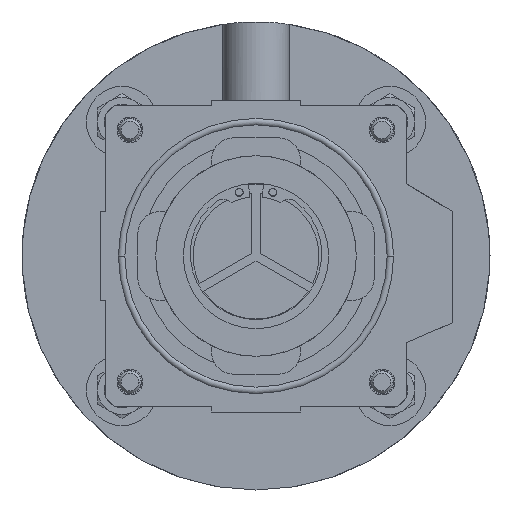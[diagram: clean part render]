
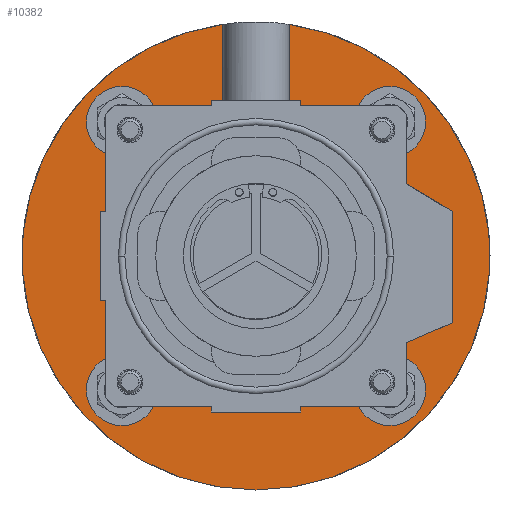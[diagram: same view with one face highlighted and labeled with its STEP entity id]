
A CAD part, front view. The second image highlights one B-rep face of the part: STEP entity #10382.
In plain terms, the highlighted planar face has unit normal (0, -1, 0).
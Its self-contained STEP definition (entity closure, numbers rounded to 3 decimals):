
#1512=CARTESIAN_POINT('',(0.,87.,0.));
#1513=DIRECTION('',(0.,1.,0.));
#1514=DIRECTION('',(0.096,0.,-0.995));
#1515=AXIS2_PLACEMENT_3D('',#1512,#1513,#1514);
#1611=DIRECTION('',(-1.,0.,0.));
#1612=VECTOR('',#1611,52.504);
#1613=CARTESIAN_POINT('',(88.,87.,-6.));
#1614=LINE('',#1613,#1612);
#1619=DIRECTION('',(0.,0.,1.));
#1620=VECTOR('',#1619,12.);
#1621=CARTESIAN_POINT('',(88.,87.,-6.));
#1622=LINE('',#1621,#1620);
#1623=DIRECTION('',(0.,0.,-1.));
#1624=VECTOR('',#1623,71.197);
#1625=CARTESIAN_POINT('',(15.,87.,103.923));
#1626=LINE('',#1625,#1624);
#1627=CARTESIAN_POINT('',(0.,87.,0.));
#1628=DIRECTION('',(0.,1.,0.));
#1629=DIRECTION('',(0.143,0.,0.99));
#1630=AXIS2_PLACEMENT_3D('',#1627,#1628,#1629);
#1632=CARTESIAN_POINT('',(0.,87.,0.));
#1633=DIRECTION('',(0.,-1.,0.));
#1634=DIRECTION('',(-0.143,0.,0.99));
#1635=AXIS2_PLACEMENT_3D('',#1632,#1633,#1634);
#1637=DIRECTION('',(0.,0.,-1.));
#1638=VECTOR('',#1637,71.197);
#1639=CARTESIAN_POINT('',(-15.,87.,103.923));
#1640=LINE('',#1639,#1638);
#1641=DIRECTION('',(-1.,0.,0.));
#1642=VECTOR('',#1641,26.715);
#1643=CARTESIAN_POINT('',(-35.496,87.,6.));
#1644=LINE('',#1643,#1642);
#1645=CARTESIAN_POINT('',(0.,87.,0.));
#1646=DIRECTION('',(0.,-1.,0.));
#1647=DIRECTION('',(-0.995,0.,0.096));
#1648=AXIS2_PLACEMENT_3D('',#1645,#1646,#1647);
#1650=DIRECTION('',(1.,0.,0.));
#1651=VECTOR('',#1650,26.715);
#1652=CARTESIAN_POINT('',(-62.211,87.,-6.));
#1653=LINE('',#1652,#1651);
#1654=DIRECTION('',(0.,0.,-1.));
#1655=VECTOR('',#1654,26.715);
#1656=CARTESIAN_POINT('',(-6.,87.,-35.496));
#1657=LINE('',#1656,#1655);
#1658=DIRECTION('',(0.,0.,1.));
#1659=VECTOR('',#1658,26.715);
#1660=CARTESIAN_POINT('',(6.,87.,-62.211));
#1661=LINE('',#1660,#1659);
#1662=CARTESIAN_POINT('',(60.104,87.,-60.104));
#1663=DIRECTION('',(0.,1.,0.));
#1664=DIRECTION('',(1.,0.,0.));
#1665=AXIS2_PLACEMENT_3D('',#1662,#1663,#1664);
#1667=CARTESIAN_POINT('',(60.104,87.,-60.104));
#1668=DIRECTION('',(0.,1.,0.));
#1669=DIRECTION('',(-1.,0.,0.));
#1670=AXIS2_PLACEMENT_3D('',#1667,#1668,#1669);
#1672=CARTESIAN_POINT('',(60.104,87.,60.104));
#1673=DIRECTION('',(0.,1.,0.));
#1674=DIRECTION('',(1.,0.,0.));
#1675=AXIS2_PLACEMENT_3D('',#1672,#1673,#1674);
#1677=CARTESIAN_POINT('',(60.104,87.,60.104));
#1678=DIRECTION('',(0.,1.,0.));
#1679=DIRECTION('',(-1.,0.,0.));
#1680=AXIS2_PLACEMENT_3D('',#1677,#1678,#1679);
#1682=CARTESIAN_POINT('',(-60.104,87.,60.104));
#1683=DIRECTION('',(0.,1.,0.));
#1684=DIRECTION('',(1.,0.,0.));
#1685=AXIS2_PLACEMENT_3D('',#1682,#1683,#1684);
#1687=CARTESIAN_POINT('',(-60.104,87.,60.104));
#1688=DIRECTION('',(0.,1.,0.));
#1689=DIRECTION('',(-1.,0.,0.));
#1690=AXIS2_PLACEMENT_3D('',#1687,#1688,#1689);
#1692=CARTESIAN_POINT('',(-60.104,87.,-60.104));
#1693=DIRECTION('',(0.,1.,0.));
#1694=DIRECTION('',(1.,0.,0.));
#1695=AXIS2_PLACEMENT_3D('',#1692,#1693,#1694);
#1697=CARTESIAN_POINT('',(-60.104,87.,-60.104));
#1698=DIRECTION('',(0.,1.,0.));
#1699=DIRECTION('',(-1.,0.,0.));
#1700=AXIS2_PLACEMENT_3D('',#1697,#1698,#1699);
#1702=DIRECTION('',(1.,0.,0.));
#1703=VECTOR('',#1702,52.504);
#1704=CARTESIAN_POINT('',(35.496,87.,6.));
#1705=LINE('',#1704,#1703);
#1764=CARTESIAN_POINT('',(0.,87.,0.));
#1765=DIRECTION('',(0.,1.,0.));
#1766=DIRECTION('',(0.417,0.,0.909));
#1767=AXIS2_PLACEMENT_3D('',#1764,#1765,#1766);
#1795=CARTESIAN_POINT('',(15.,87.,103.923));
#1850=CARTESIAN_POINT('',(0.,87.,0.));
#1851=DIRECTION('',(0.,-1.,0.));
#1852=DIRECTION('',(-0.417,0.,0.909));
#1853=AXIS2_PLACEMENT_3D('',#1850,#1851,#1852);
#4123=CARTESIAN_POINT('',(0.,87.,0.));
#4124=DIRECTION('',(0.,-1.,0.));
#4125=DIRECTION('',(-0.986,0.,-0.167));
#4126=AXIS2_PLACEMENT_3D('',#4123,#4124,#4125);
#4136=CARTESIAN_POINT('',(0.,87.,0.));
#4137=DIRECTION('',(0.,1.,0.));
#4138=DIRECTION('',(0.986,0.,-0.167));
#4139=AXIS2_PLACEMENT_3D('',#4136,#4137,#4138);
#7178=CARTESIAN_POINT('',(6.,87.,-35.496));
#7180=VERTEX_POINT('',#7178);
#7182=CARTESIAN_POINT('',(35.496,87.,-6.));
#7184=VERTEX_POINT('',#7182);
#7186=CARTESIAN_POINT('',(35.496,87.,6.));
#7188=VERTEX_POINT('',#7186);
#7205=CARTESIAN_POINT('',(-6.,87.,-35.496));
#7206=VERTEX_POINT('',#7205);
#7213=CARTESIAN_POINT('',(-6.,87.,-62.211));
#7214=VERTEX_POINT('',#7213);
#7215=CARTESIAN_POINT('',(6.,87.,-62.211));
#7216=VERTEX_POINT('',#7215);
#7237=CARTESIAN_POINT('',(-35.496,87.,6.));
#7238=VERTEX_POINT('',#7237);
#7239=CARTESIAN_POINT('',(-35.496,87.,-6.));
#7240=VERTEX_POINT('',#7239);
#7241=CARTESIAN_POINT('',(-62.211,87.,6.));
#7242=VERTEX_POINT('',#7241);
#7243=CARTESIAN_POINT('',(-62.211,87.,-6.));
#7244=VERTEX_POINT('',#7243);
#7245=CARTESIAN_POINT('',(88.,87.,-6.));
#7246=CARTESIAN_POINT('',(88.,87.,6.));
#7247=VERTEX_POINT('',#7245);
#7248=VERTEX_POINT('',#7246);
#7311=CARTESIAN_POINT('',(-15.,87.,103.923));
#7312=CARTESIAN_POINT('',(-15.,87.,32.726));
#7313=VERTEX_POINT('',#7311);
#7314=VERTEX_POINT('',#7312);
#7315=CARTESIAN_POINT('',(0.,87.,-105.));
#7316=VERTEX_POINT('',#7315);
#7317=VERTEX_POINT('',#1795);
#7319=CARTESIAN_POINT('',(15.,87.,32.726));
#7320=VERTEX_POINT('',#7319);
#7983=CARTESIAN_POINT('',(76.104,87.,-60.104));
#7984=CARTESIAN_POINT('',(44.104,87.,-60.104));
#7985=VERTEX_POINT('',#7983);
#7986=VERTEX_POINT('',#7984);
#7991=CARTESIAN_POINT('',(76.104,87.,60.104));
#7992=CARTESIAN_POINT('',(44.104,87.,60.104));
#7993=VERTEX_POINT('',#7991);
#7994=VERTEX_POINT('',#7992);
#7999=CARTESIAN_POINT('',(-44.104,87.,60.104));
#8000=CARTESIAN_POINT('',(-76.104,87.,60.104));
#8001=VERTEX_POINT('',#7999);
#8002=VERTEX_POINT('',#8000);
#8007=CARTESIAN_POINT('',(-44.104,87.,-60.104));
#8008=CARTESIAN_POINT('',(-76.104,87.,-60.104));
#8009=VERTEX_POINT('',#8007);
#8010=VERTEX_POINT('',#8008);
#10321=CARTESIAN_POINT('',(0.,87.,0.));
#10322=DIRECTION('',(0.,1.,0.));
#10323=DIRECTION('',(0.,0.,-1.));
#10324=AXIS2_PLACEMENT_3D('',#10321,#10322,#10323);
#10325=PLANE('',#10324);
#10326=ORIENTED_EDGE('',*,*,#9435,.T.);
#10328=ORIENTED_EDGE('',*,*,#10327,.F.);
#10330=ORIENTED_EDGE('',*,*,#10329,.F.);
#10332=ORIENTED_EDGE('',*,*,#10331,.F.);
#10334=ORIENTED_EDGE('',*,*,#10333,.T.);
#10336=ORIENTED_EDGE('',*,*,#10335,.F.);
#10338=ORIENTED_EDGE('',*,*,#10337,.T.);
#10340=ORIENTED_EDGE('',*,*,#10339,.T.);
#10342=ORIENTED_EDGE('',*,*,#10341,.T.);
#10343=ORIENTED_EDGE('',*,*,#10225,.T.);
#10345=ORIENTED_EDGE('',*,*,#10344,.T.);
#10347=ORIENTED_EDGE('',*,*,#10346,.T.);
#10349=ORIENTED_EDGE('',*,*,#10348,.T.);
#10350=ORIENTED_EDGE('',*,*,#10217,.F.);
#10352=ORIENTED_EDGE('',*,*,#10351,.T.);
#10354=ORIENTED_EDGE('',*,*,#10353,.F.);
#10355=ORIENTED_EDGE('',*,*,#10314,.F.);
#10356=EDGE_LOOP('',(#10326,#10328,#10330,#10332,#10334,#10336,#10338,#10340,
#10342,#10343,#10345,#10347,#10349,#10350,#10352,#10354,#10355));
#10357=FACE_OUTER_BOUND('',#10356,.F.);
#10359=ORIENTED_EDGE('',*,*,#10358,.F.);
#10361=ORIENTED_EDGE('',*,*,#10360,.F.);
#10362=EDGE_LOOP('',(#10359,#10361));
#10363=FACE_BOUND('',#10362,.F.);
#10365=ORIENTED_EDGE('',*,*,#10364,.F.);
#10367=ORIENTED_EDGE('',*,*,#10366,.F.);
#10368=EDGE_LOOP('',(#10365,#10367));
#10369=FACE_BOUND('',#10368,.F.);
#10371=ORIENTED_EDGE('',*,*,#10370,.F.);
#10373=ORIENTED_EDGE('',*,*,#10372,.F.);
#10374=EDGE_LOOP('',(#10371,#10373));
#10375=FACE_BOUND('',#10374,.F.);
#10377=ORIENTED_EDGE('',*,*,#10376,.F.);
#10379=ORIENTED_EDGE('',*,*,#10378,.F.);
#10380=EDGE_LOOP('',(#10377,#10379));
#10381=FACE_BOUND('',#10380,.F.);
#10382=ADVANCED_FACE('',(#10357,#10363,#10369,#10375,#10381),#10325,.F.);
#1516=CIRCLE('',#1515,62.5);
#1631=CIRCLE('',#1630,105.);
#1636=CIRCLE('',#1635,105.);
#1649=CIRCLE('',#1648,62.5);
#1666=CIRCLE('',#1665,16.);
#1671=CIRCLE('',#1670,16.);
#1676=CIRCLE('',#1675,16.);
#1681=CIRCLE('',#1680,16.);
#1686=CIRCLE('',#1685,16.);
#1691=CIRCLE('',#1690,16.);
#1696=CIRCLE('',#1695,16.);
#1701=CIRCLE('',#1700,16.);
#1768=CIRCLE('',#1767,36.);
#1854=CIRCLE('',#1853,36.);
#4127=CIRCLE('',#4126,36.);
#4140=CIRCLE('',#4139,36.);
#9435=EDGE_CURVE('',#7247,#7248,#1622,.T.);
#10217=EDGE_CURVE('',#7216,#7214,#1516,.T.);
#10225=EDGE_CURVE('',#7242,#7244,#1649,.T.);
#10314=EDGE_CURVE('',#7247,#7184,#1614,.T.);
#10327=EDGE_CURVE('',#7188,#7248,#1705,.T.);
#10329=EDGE_CURVE('',#7320,#7188,#1768,.T.);
#10331=EDGE_CURVE('',#7317,#7320,#1626,.T.);
#10333=EDGE_CURVE('',#7317,#7316,#1631,.T.);
#10335=EDGE_CURVE('',#7313,#7316,#1636,.T.);
#10337=EDGE_CURVE('',#7313,#7314,#1640,.T.);
#10339=EDGE_CURVE('',#7314,#7238,#1854,.T.);
#10341=EDGE_CURVE('',#7238,#7242,#1644,.T.);
#10344=EDGE_CURVE('',#7244,#7240,#1653,.T.);
#10346=EDGE_CURVE('',#7240,#7206,#4127,.T.);
#10348=EDGE_CURVE('',#7206,#7214,#1657,.T.);
#10351=EDGE_CURVE('',#7216,#7180,#1661,.T.);
#10353=EDGE_CURVE('',#7184,#7180,#4140,.T.);
#10358=EDGE_CURVE('',#7985,#7986,#1666,.T.);
#10360=EDGE_CURVE('',#7986,#7985,#1671,.T.);
#10364=EDGE_CURVE('',#7993,#7994,#1676,.T.);
#10366=EDGE_CURVE('',#7994,#7993,#1681,.T.);
#10370=EDGE_CURVE('',#8001,#8002,#1686,.T.);
#10372=EDGE_CURVE('',#8002,#8001,#1691,.T.);
#10376=EDGE_CURVE('',#8009,#8010,#1696,.T.);
#10378=EDGE_CURVE('',#8010,#8009,#1701,.T.);
